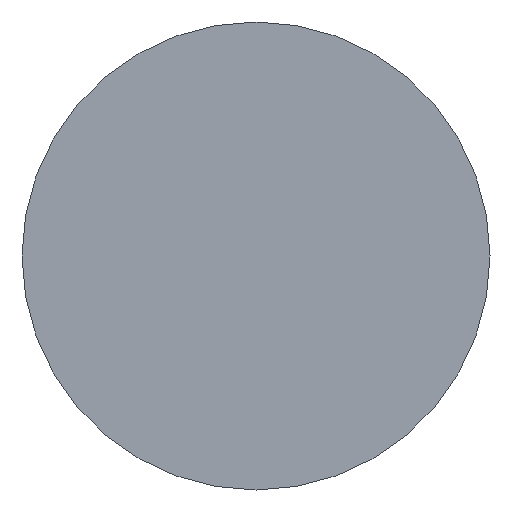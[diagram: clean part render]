
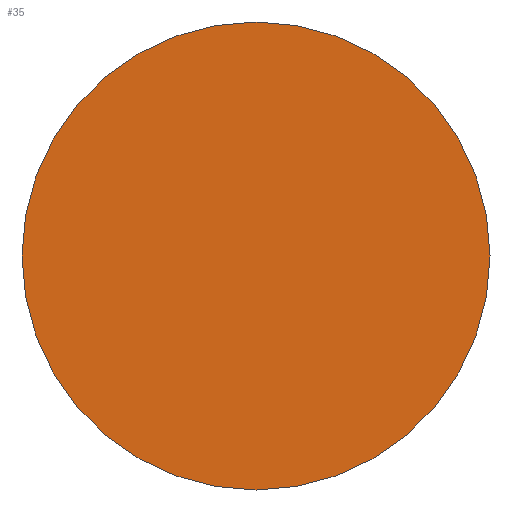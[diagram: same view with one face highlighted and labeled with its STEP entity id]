
A CAD part, left-side view. The second image highlights one B-rep face of the part: STEP entity #35.
In plain terms, the highlighted planar face has unit normal (-1, 0, 0).
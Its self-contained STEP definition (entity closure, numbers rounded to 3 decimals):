
#22 = CARTESIAN_POINT ( 'NONE',  ( 0., -2., 0. ) ) ;
#35 = ADVANCED_FACE ( 'NONE', ( #237 ), #176, .T. ) ;
#38 = CIRCLE ( 'NONE', #143, 2. ) ;
#60 = AXIS2_PLACEMENT_3D ( 'NONE', #226, #202, #92 ) ;
#72 = CIRCLE ( 'NONE', #264, 2. ) ;
#73 = EDGE_CURVE ( 'NONE', #190, #114, #72, .T. ) ;
#86 = CARTESIAN_POINT ( 'NONE',  ( 0., 2., 0. ) ) ;
#92 = DIRECTION ( 'NONE',  ( 0., -1., 0. ) ) ;
#113 = ORIENTED_EDGE ( 'NONE', *, *, #142, .F. ) ;
#114 = VERTEX_POINT ( 'NONE', #86 ) ;
#130 = DIRECTION ( 'NONE',  ( 0., 1., 0. ) ) ;
#135 = DIRECTION ( 'NONE',  ( 1., 0., 0. ) ) ;
#142 = EDGE_CURVE ( 'NONE', #114, #190, #38, .T. ) ;
#143 = AXIS2_PLACEMENT_3D ( 'NONE', #229, #135, #244 ) ;
#164 = DIRECTION ( 'NONE',  ( 1., 0., 0. ) ) ;
#176 = PLANE ( 'NONE',  #60 ) ;
#190 = VERTEX_POINT ( 'NONE', #22 ) ;
#200 = ORIENTED_EDGE ( 'NONE', *, *, #73, .F. ) ;
#202 = DIRECTION ( 'NONE',  ( -1., 0., 0. ) ) ;
#216 = EDGE_LOOP ( 'NONE', ( #113, #200 ) ) ;
#219 = CARTESIAN_POINT ( 'NONE',  ( 0., 0., 0. ) ) ;
#226 = CARTESIAN_POINT ( 'NONE',  ( 0., 0., 0. ) ) ;
#229 = CARTESIAN_POINT ( 'NONE',  ( 0., 0., 0. ) ) ;
#237 = FACE_OUTER_BOUND ( 'NONE', #216, .T. ) ;
#244 = DIRECTION ( 'NONE',  ( 0., 1., 0. ) ) ;
#264 = AXIS2_PLACEMENT_3D ( 'NONE', #219, #164, #130 ) ;
